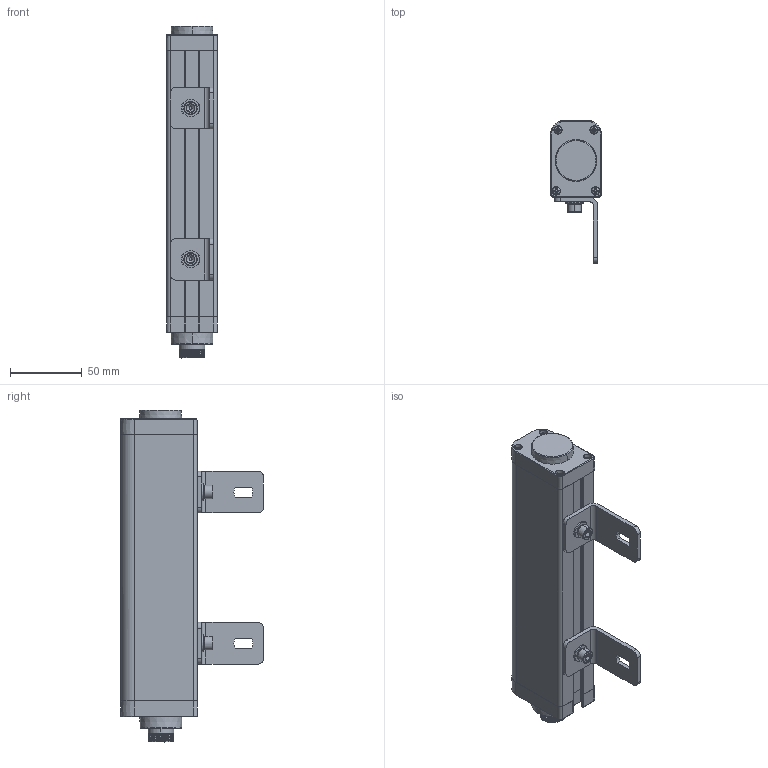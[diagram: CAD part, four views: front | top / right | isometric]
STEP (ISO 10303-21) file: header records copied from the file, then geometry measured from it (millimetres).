
FILE_DESCRIPTION((''),'2;1');
FILE_NAME('ESE8420_ASM','2021-07-12T14:38:07',('18720616900'),(''),'CREO PARAMETRIC BY PTC INC, 2019010','CREO PARAMETRIC BY PTC INC, 2019010','');
FILE_SCHEMA(('CONFIG_CONTROL_DESIGN'));
Length unit declared in the file: millimetre
Products named in the file (15): ESE--00; 000; ESE--000; HKCT2-1-SOLID1; HKCT11-1-SOLID1; 6_10001_ASM; ST-3-120001; L10001; M6-1-00; M6-1--00; M6-8--0001; 00; L1--0001_ASM; ESE8420_ASM
Assembly tree (22 placements, depth 3):
  ESE8420_ASM
    ESE--00
    000
    ESE--000
    ESE--000
    6_10001_ASM
      HKCT2-1-SOLID1
      HKCT11-1-SOLID1
    ST-3-120001  x8
    L1--0001_ASM  x2
      L10001
      M6-1-00
      M6-1--00
      M6-8--0001
      00
Bounding box: 35.3 x 99.3 x 230.59 mm (x, y, z)
Volume: 377783.6 mm3; surface area: 79556.8 mm2
Topology: 24 solids, 24 shells, 1203 faces, 3161 edges, 2022 vertices
Faces by surface type: plane 340, cylinder 306, cone 246, bspline 233, torus 64, sphere 14
Entity records: 41666 total; most frequent: CARTESIAN_POINT 27268, ORIENTED_EDGE 3088, DIRECTION 2720, EDGE_CURVE 1544, AXIS2_PLACEMENT_3D 1052, VERTEX_POINT 1019, EDGE_LOOP 661, VECTOR 616
